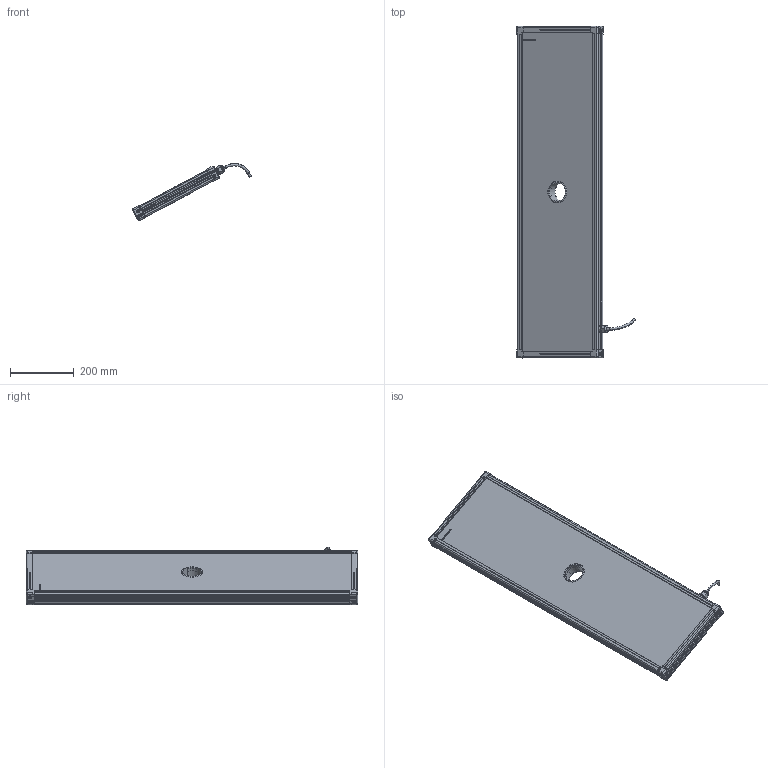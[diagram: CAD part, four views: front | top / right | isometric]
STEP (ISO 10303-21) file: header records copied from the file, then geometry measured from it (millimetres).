
FILE_DESCRIPTION (( 'STEP AP214' ), '1' );
FILE_NAME ('EFFI-FD-250-1000-ZZZ-1M12P.STEP', '2021-06-22T07:37:30', ( '' ), ( '' ), 'SwSTEP 2.0', 'SolidWorks 2021', '' );
FILE_SCHEMA (( 'AUTOMOTIVE_DESIGN' ));
Length unit declared in the file: millimetre
Products named in the file (13): Assemblage Ø58.5; petite joue; 000590; petite joue + vis; profile Y_PERCE; 000629; Pièce13^EFFI-FD-XXX-YYY-ZZZ (1 connecteur) M12POWER Ø58.5; M12 power_AVEC CABLE D8.1; EFFI-FD-250-1000-ZZZ-1M12P; 001037; 001038; profile X_PERCE
Assembly tree (19 placements, depth 3):
  EFFI-FD-250-1000-ZZZ-1M12P
    profile X_PERCE  x2
    profile Y_PERCE
    profile Y_PERCE
    Pièce13^EFFI-FD-XXX-YYY-ZZZ (1 connecteur) M12POWER Ø58.5
    petite joue + vis  x4
      petite joue
      000629
    M12 power_AVEC CABLE D8.1
    Assemblage Ø58.5
      001037
      001038
      000590  x3
Bounding box: 370.8 x 1039 x 179.04 mm (x, y, z)
Volume: 10286776.5 mm3; surface area: 1016760.1 mm2
Topology: 22 solids, 25 shells, 3946 faces, 10510 edges, 6901 vertices
Faces by surface type: plane 2446, cylinder 718, bspline 591, cone 154, torus 29, sphere 8
Entity records: 55870 total; most frequent: CARTESIAN_POINT 22540, ORIENTED_EDGE 6994, DIRECTION 5720, EDGE_CURVE 3499, VECTOR 2454, LINE 2454, VERTEX_POINT 2302, AXIS2_PLACEMENT_3D 1633
